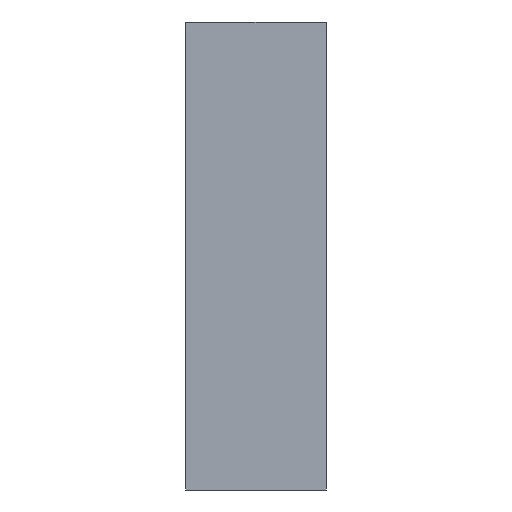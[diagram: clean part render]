
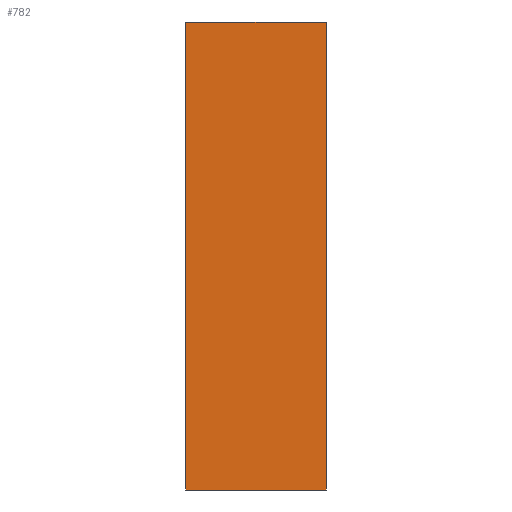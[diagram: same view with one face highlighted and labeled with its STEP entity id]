
A CAD part, left-side view. The second image highlights one B-rep face of the part: STEP entity #782.
In plain terms, the highlighted planar face has unit normal (-1, 0, 0).
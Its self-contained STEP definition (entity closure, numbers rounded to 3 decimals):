
#28=LINE('',#1105,#122);
#60=LINE('',#1180,#154);
#90=LINE('',#1254,#184);
#92=LINE('',#1257,#186);
#122=VECTOR('',#899,1000.);
#154=VECTOR('',#945,1000.);
#184=VECTOR('',#991,1000.);
#186=VECTOR('',#995,1000.);
#300=ORIENTED_EDGE('',*,*,#477,.F.);
#301=ORIENTED_EDGE('',*,*,#516,.F.);
#302=ORIENTED_EDGE('',*,*,#440,.T.);
#303=ORIENTED_EDGE('',*,*,#514,.T.);
#440=EDGE_CURVE('',#550,#551,#28,.T.);
#477=EDGE_CURVE('',#586,#587,#60,.T.);
#514=EDGE_CURVE('',#551,#587,#90,.T.);
#516=EDGE_CURVE('',#550,#586,#92,.T.);
#550=VERTEX_POINT('',#1106);
#551=VERTEX_POINT('',#1107);
#586=VERTEX_POINT('',#1181);
#587=VERTEX_POINT('',#1182);
#652=EDGE_LOOP('',(#300,#301,#302,#303));
#706=FACE_BOUND('',#652,.T.);
#749=PLANE('',#851);
#782=ADVANCED_FACE('',(#706),#749,.T.);
#851=AXIS2_PLACEMENT_3D('',#1256,#993,#994);
#899=DIRECTION('',(0.,-1.,0.));
#945=DIRECTION('',(0.,-1.,0.));
#991=DIRECTION('',(0.,0.,1.));
#993=DIRECTION('',(-1.,0.,0.));
#994=DIRECTION('',(0.,-1.,0.));
#995=DIRECTION('',(0.,0.,1.));
#1105=CARTESIAN_POINT('',(-14.995,-3.25,-50.));
#1106=CARTESIAN_POINT('',(-14.995,15.,-50.));
#1107=CARTESIAN_POINT('',(-14.995,-15.,-50.));
#1180=CARTESIAN_POINT('',(-14.995,15.,50.));
#1181=CARTESIAN_POINT('',(-14.995,15.,50.));
#1182=CARTESIAN_POINT('',(-14.995,-15.,50.));
#1254=CARTESIAN_POINT('',(-14.995,-15.,-100.));
#1256=CARTESIAN_POINT('',(-14.995,15.,0.));
#1257=CARTESIAN_POINT('',(-14.995,15.,-100.));
